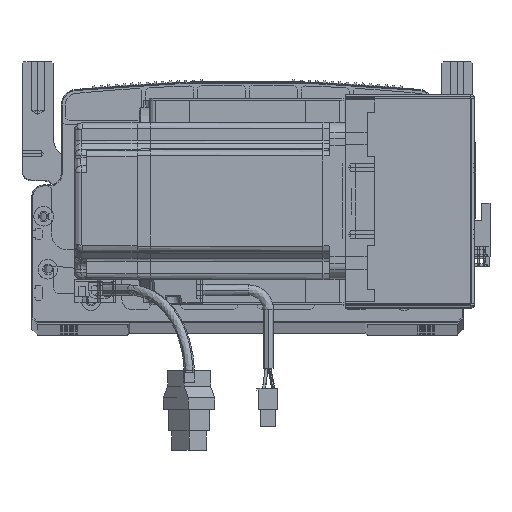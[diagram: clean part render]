
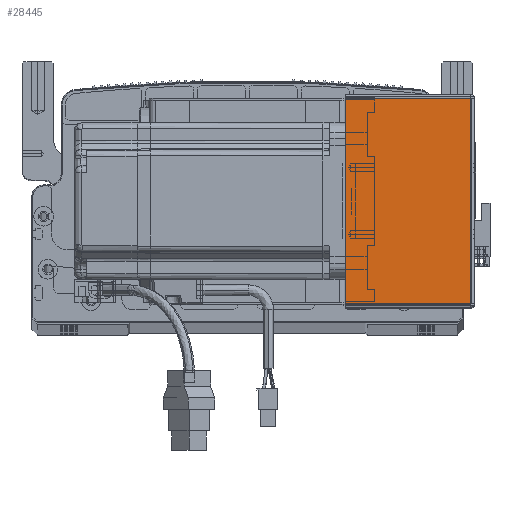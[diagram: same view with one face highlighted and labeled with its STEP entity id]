
A CAD part, top view. The second image highlights one B-rep face of the part: STEP entity #28445.
In plain terms, the highlighted planar face has unit normal (0, 0, 1) as drawn and (0, 0, -1) by its records, which use the part's own axes.
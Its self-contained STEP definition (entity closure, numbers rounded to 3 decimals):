
#1279 = CARTESIAN_POINT ( 'NONE',  ( 0.737, 0., -205.5 ) ) ;
#2422 = VERTEX_POINT ( 'NONE', #41149 ) ;
#3006 = LINE ( 'NONE', #73513, #49279 ) ;
#9004 = VECTOR ( 'NONE', #40909, 1000. ) ;
#18195 = DIRECTION ( 'NONE',  ( 1., 0., 0. ) ) ;
#20816 = VERTEX_POINT ( 'NONE', #86526 ) ;
#25965 = LINE ( 'NONE', #49050, #33179 ) ;
#27282 = DIRECTION ( 'NONE',  ( 1., 0., 0. ) ) ;
#28445 = ADVANCED_FACE ( 'NONE', ( #31874 ), #73455, .F. ) ;
#30925 = DIRECTION ( 'NONE',  ( 0., -1., 0. ) ) ;
#31874 = FACE_OUTER_BOUND ( 'NONE', #80248, .T. ) ;
#33179 = VECTOR ( 'NONE', #57815, 1000. ) ;
#35883 = LINE ( 'NONE', #71428, #9004 ) ;
#36626 = ORIENTED_EDGE ( 'NONE', *, *, #44996, .F. ) ;
#40909 = DIRECTION ( 'NONE',  ( 0., -1., 0. ) ) ;
#41149 = CARTESIAN_POINT ( 'NONE',  ( 64.5, 0.707, -205.5 ) ) ;
#42124 = AXIS2_PLACEMENT_3D ( 'NONE', #86597, #57523, #27282 ) ;
#44057 = ORIENTED_EDGE ( 'NONE', *, *, #70236, .T. ) ;
#44996 = EDGE_CURVE ( 'NONE', #58008, #97029, #73005, .T. ) ;
#49050 = CARTESIAN_POINT ( 'NONE',  ( 0., 0.707, -205.5 ) ) ;
#49279 = VECTOR ( 'NONE', #18195, 1000. ) ;
#52040 = CARTESIAN_POINT ( 'NONE',  ( 0.737, 105.293, -205.5 ) ) ;
#54785 = VECTOR ( 'NONE', #30925, 1000. ) ;
#57523 = DIRECTION ( 'NONE',  ( 0., 0., 1. ) ) ;
#57815 = DIRECTION ( 'NONE',  ( 1., 0., 0. ) ) ;
#58008 = VERTEX_POINT ( 'NONE', #52040 ) ;
#66786 = ORIENTED_EDGE ( 'NONE', *, *, #71942, .F. ) ;
#70236 = EDGE_CURVE ( 'NONE', #20816, #2422, #35883, .T. ) ;
#71428 = CARTESIAN_POINT ( 'NONE',  ( 64.5, 0., -205.5 ) ) ;
#71942 = EDGE_CURVE ( 'NONE', #97029, #2422, #25965, .T. ) ;
#73005 = LINE ( 'NONE', #1279, #54785 ) ;
#73455 = PLANE ( 'NONE',  #42124 ) ;
#73513 = CARTESIAN_POINT ( 'NONE',  ( 0., 105.293, -205.5 ) ) ;
#80020 = ORIENTED_EDGE ( 'NONE', *, *, #83674, .T. ) ;
#80248 = EDGE_LOOP ( 'NONE', ( #36626, #80020, #44057, #66786 ) ) ;
#83674 = EDGE_CURVE ( 'NONE', #58008, #20816, #3006, .T. ) ;
#86526 = CARTESIAN_POINT ( 'NONE',  ( 64.5, 105.293, -205.5 ) ) ;
#86597 = CARTESIAN_POINT ( 'NONE',  ( 0., 0., -205.5 ) ) ;
#94739 = CARTESIAN_POINT ( 'NONE',  ( 0.737, 0.707, -205.5 ) ) ;
#97029 = VERTEX_POINT ( 'NONE', #94739 ) ;
